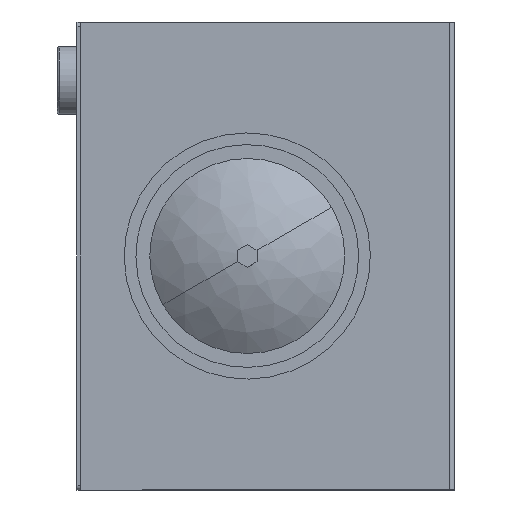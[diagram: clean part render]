
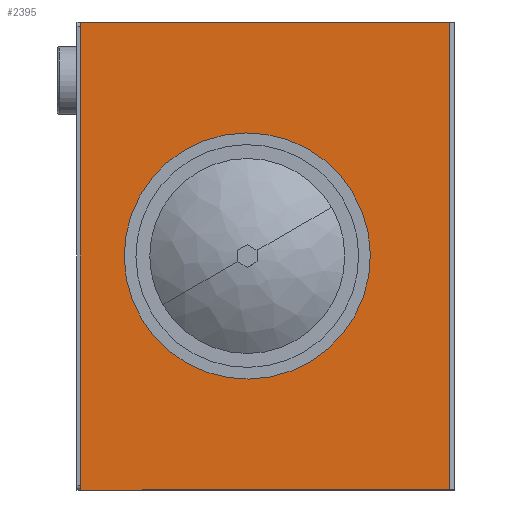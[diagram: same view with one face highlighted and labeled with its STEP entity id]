
A CAD part, left-side view. The second image highlights one B-rep face of the part: STEP entity #2395.
In plain terms, the highlighted planar face has unit normal (-1, 0, 0) as drawn and (1, 0, 0) by its records, which use the part's own axes.
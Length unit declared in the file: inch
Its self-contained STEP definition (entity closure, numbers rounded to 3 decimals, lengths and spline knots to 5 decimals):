
#402 = VECTOR ( 'NONE', #3444, 39.37008 ) ;
#454 = ORIENTED_EDGE ( 'NONE', *, *, #4258, .F. ) ;
#550 = VERTEX_POINT ( 'NONE', #8432 ) ;
#925 = DIRECTION ( 'NONE',  ( 0., -1., 0. ) ) ;
#946 = VECTOR ( 'NONE', #925, 39.37008 ) ;
#980 = VERTEX_POINT ( 'NONE', #2052 ) ;
#992 = VECTOR ( 'NONE', #2529, 39.37008 ) ;
#1306 = CARTESIAN_POINT ( 'NONE',  ( 0., -9.34375, 12. ) ) ;
#1336 = ORIENTED_EDGE ( 'NONE', *, *, #8098, .T. ) ;
#1657 = DIRECTION ( 'NONE',  ( 0., 0., -1. ) ) ;
#2035 = LINE ( 'NONE', #6312, #8971 ) ;
#2052 = CARTESIAN_POINT ( 'NONE',  ( 0., 1.04075, 5. ) ) ;
#2086 = AXIS2_PLACEMENT_3D ( 'NONE', #2442, #5943, #1657 ) ;
#2331 = PLANE ( 'NONE',  #7380 ) ;
#2395 = ADVANCED_FACE ( 'NONE', ( #7139, #7356 ), #2331, .F. ) ;
#2442 = CARTESIAN_POINT ( 'NONE',  ( 0., 1.04075, 0. ) ) ;
#2529 = DIRECTION ( 'NONE',  ( 0., 1., 0. ) ) ;
#2833 = DIRECTION ( 'NONE',  ( 0., 0., 1. ) ) ;
#2941 = DIRECTION ( 'NONE',  ( 1., 0., 0. ) ) ;
#3232 = ORIENTED_EDGE ( 'NONE', *, *, #5014, .F. ) ;
#3444 = DIRECTION ( 'NONE',  ( 0., 0., -1. ) ) ;
#3612 = CIRCLE ( 'NONE', #6071, 5. ) ;
#4013 = EDGE_CURVE ( 'NONE', #550, #5832, #7960, .T. ) ;
#4258 = EDGE_CURVE ( 'NONE', #980, #5602, #5803, .T. ) ;
#4383 = ORIENTED_EDGE ( 'NONE', *, *, #4013, .T. ) ;
#4432 = CARTESIAN_POINT ( 'NONE',  ( 0., -9.59375, 12. ) ) ;
#4590 = DIRECTION ( 'NONE',  ( 0., 0., 1. ) ) ;
#4668 = VERTEX_POINT ( 'NONE', #6568 ) ;
#4995 = EDGE_CURVE ( 'NONE', #5832, #4668, #2035, .T. ) ;
#5014 = EDGE_CURVE ( 'NONE', #5602, #980, #3612, .T. ) ;
#5155 = CARTESIAN_POINT ( 'NONE',  ( 0., 9.59375, -12. ) ) ;
#5602 = VERTEX_POINT ( 'NONE', #7008 ) ;
#5698 = VERTEX_POINT ( 'NONE', #7090 ) ;
#5803 = CIRCLE ( 'NONE', #2086, 5. ) ;
#5832 = VERTEX_POINT ( 'NONE', #5155 ) ;
#5943 = DIRECTION ( 'NONE',  ( 1., 0., 0. ) ) ;
#6051 = EDGE_CURVE ( 'NONE', #5698, #550, #7814, .T. ) ;
#6071 = AXIS2_PLACEMENT_3D ( 'NONE', #7103, #2941, #7795 ) ;
#6312 = CARTESIAN_POINT ( 'NONE',  ( 0., 9.59375, 12. ) ) ;
#6568 = CARTESIAN_POINT ( 'NONE',  ( 0., 9.59375, 12. ) ) ;
#6644 = CARTESIAN_POINT ( 'NONE',  ( 0., -9.59375, -12. ) ) ;
#6694 = EDGE_LOOP ( 'NONE', ( #6714, #4383, #8811, #1336 ) ) ;
#6714 = ORIENTED_EDGE ( 'NONE', *, *, #6051, .T. ) ;
#7008 = CARTESIAN_POINT ( 'NONE',  ( 0., 1.04075, -5. ) ) ;
#7090 = CARTESIAN_POINT ( 'NONE',  ( 0., -9.34375, 12. ) ) ;
#7103 = CARTESIAN_POINT ( 'NONE',  ( 0., 1.04075, 0. ) ) ;
#7139 = FACE_BOUND ( 'NONE', #8270, .T. ) ;
#7356 = FACE_OUTER_BOUND ( 'NONE', #6694, .T. ) ;
#7380 = AXIS2_PLACEMENT_3D ( 'NONE', #7957, #7936, #4590 ) ;
#7795 = DIRECTION ( 'NONE',  ( 0., 0., -1. ) ) ;
#7814 = LINE ( 'NONE', #1306, #402 ) ;
#7936 = DIRECTION ( 'NONE',  ( -1., 0., 0. ) ) ;
#7957 = CARTESIAN_POINT ( 'NONE',  ( 0., 0., 0. ) ) ;
#7960 = LINE ( 'NONE', #6644, #992 ) ;
#8098 = EDGE_CURVE ( 'NONE', #4668, #5698, #8348, .T. ) ;
#8270 = EDGE_LOOP ( 'NONE', ( #3232, #454 ) ) ;
#8348 = LINE ( 'NONE', #4432, #946 ) ;
#8432 = CARTESIAN_POINT ( 'NONE',  ( 0., -9.34375, -12. ) ) ;
#8811 = ORIENTED_EDGE ( 'NONE', *, *, #4995, .T. ) ;
#8971 = VECTOR ( 'NONE', #2833, 39.37008 ) ;
